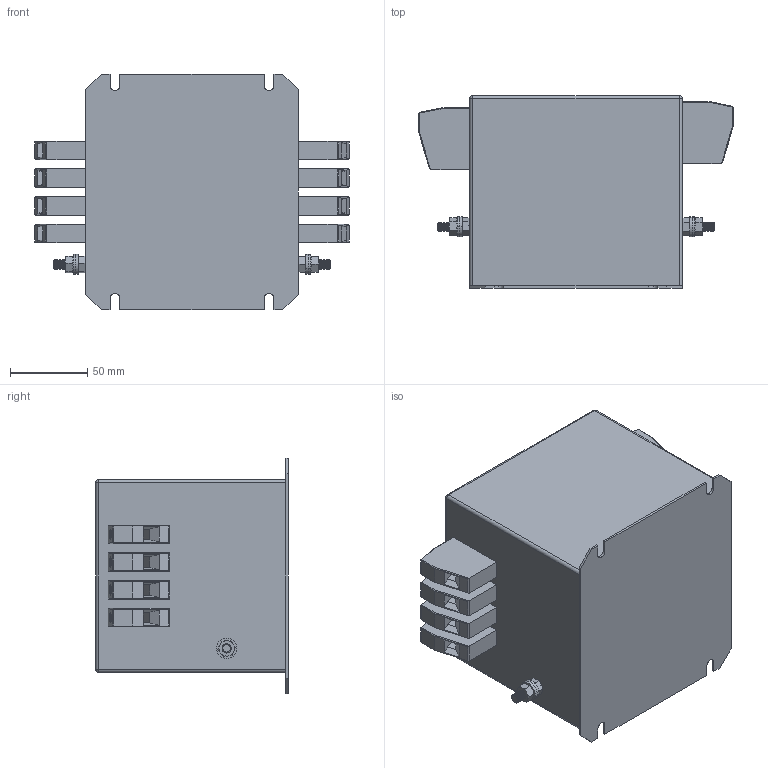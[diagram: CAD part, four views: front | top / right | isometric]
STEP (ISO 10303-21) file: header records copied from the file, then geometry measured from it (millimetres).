
FILE_DESCRIPTION (( 'STEP AP203' ), '1' );
FILE_NAME ('NF-4-64-FTN.STEP', '2018-02-14T10:34:47', ( '' ), ( '' ), 'SwSTEP 2.0', 'SolidWorks 2017', '' );
FILE_SCHEMA (( 'CONFIG_CONTROL_DESIGN' ));
Length unit declared in the file: millimetre
Products named in the file (7): HDFK-16; hex screw_am_B18.6.7M - M6 x 1.0 x 16 Indented HHMS --16S; M6x16 Earth post; hex nut style 1_am_B18.2.4.1M - Hex nut, Style 1,  M6 x 1 --D-N; NF-4-64-FTN; FTN-64; flat washer narrow_am_B18.22M - Plain washer, 6 mm, narrow
Assembly tree (15 placements, depth 3):
  NF-4-64-FTN
    FTN-64
    M6x16 Earth post  x2
      flat washer narrow_am_B18.22M - Plain washer, 6 mm, narrow
      hex nut style 1_am_B18.2.4.1M - Hex nut, Style 1,  M6 x 1 --D-N
      hex screw_am_B18.6.7M - M6 x 1.0 x 16 Indented HHMS --16S
    HDFK-16  x8
Bounding box: 204.01 x 125 x 153 mm (x, y, z)
Volume: 2240741.6 mm3; surface area: 206555.7 mm2
Topology: 18 solids, 18 shells, 944 faces, 2196 edges, 1336 vertices
Faces by surface type: plane 584, cone 200, cylinder 156, sphere 4
Entity records: 9389 total; most frequent: CARTESIAN_POINT 1595, DIRECTION 1504, ORIENTED_EDGE 1376, EDGE_CURVE 688, AXIS2_PLACEMENT_3D 551, VERTEX_POINT 426, VECTOR 402, LINE 402
